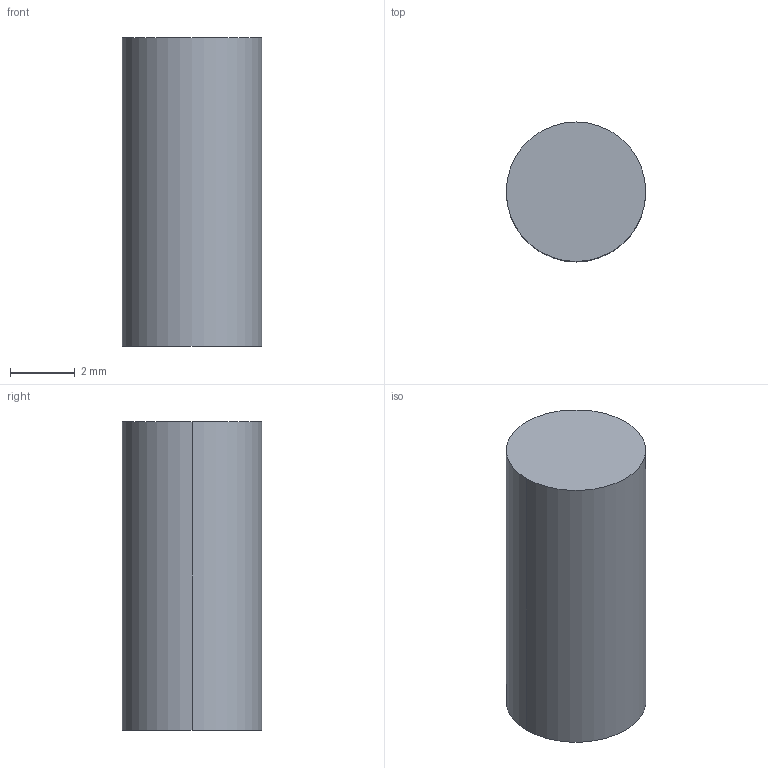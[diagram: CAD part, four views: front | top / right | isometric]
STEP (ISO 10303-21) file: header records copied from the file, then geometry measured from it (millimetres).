
FILE_DESCRIPTION (( 'STEP AP203' ), '1' );
FILE_NAME ('PF-4T.STEP', '2020-03-09T07:39:21', ( '' ), ( '' ), 'SwSTEP 2.0', 'SolidWorks 2018', '' );
FILE_SCHEMA (( 'CONFIG_CONTROL_DESIGN' ));
Length unit declared in the file: millimetre
Products named in the file (1): PF-4T
Bounding box: 4.3 x 4.3 x 9.5 mm (x, y, z)
Volume: 122 mm3; surface area: 181.9 mm2
Topology: 1 solids, 1 shells, 7 faces, 12 edges, 8 vertices
Faces by surface type: cylinder 4, plane 3
Entity records: 251 total; most frequent: DIRECTION 36, CARTESIAN_POINT 28, ORIENTED_EDGE 24, AXIS2_PLACEMENT_3D 16, EDGE_CURVE 12, CIRCLE 8, PERSON_AND_ORGANIZATION 8, VERTEX_POINT 8
